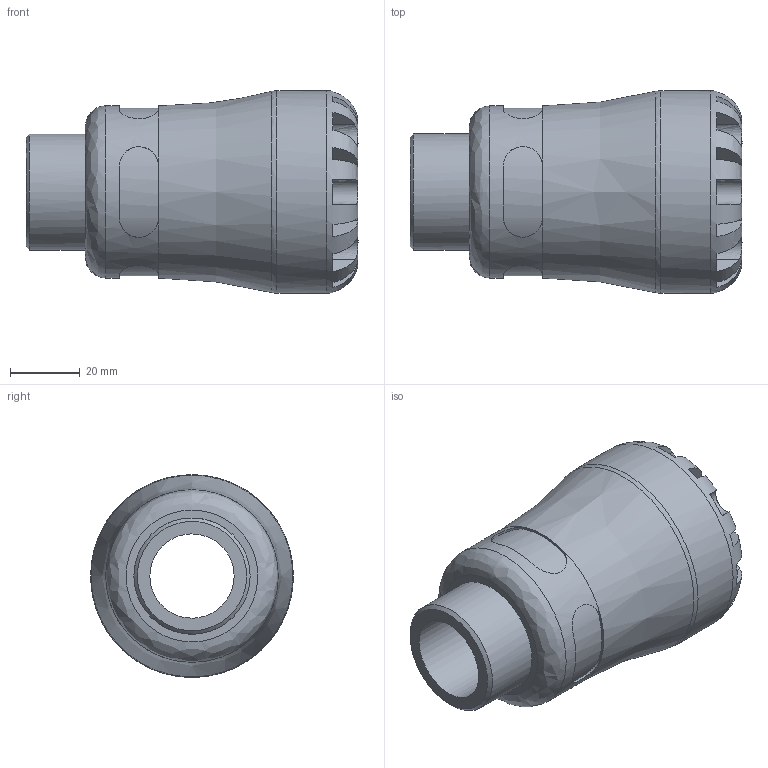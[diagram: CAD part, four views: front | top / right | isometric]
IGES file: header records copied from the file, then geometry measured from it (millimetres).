
Global section: file name: 157200032010; native system: Autodesk Inventor 2019; preprocessor: unknown; author: KIM; date: 20231021.230234; units: millimetre
Bounding box: 95 x 58 x 57.98 mm (x, y, z)
Volume: 117756.3 mm3; surface area: 27580 mm2
Topology: 1 solids, 1 shells, 99 faces, 261 edges, 169 vertices
Faces by surface type: bspline 99
